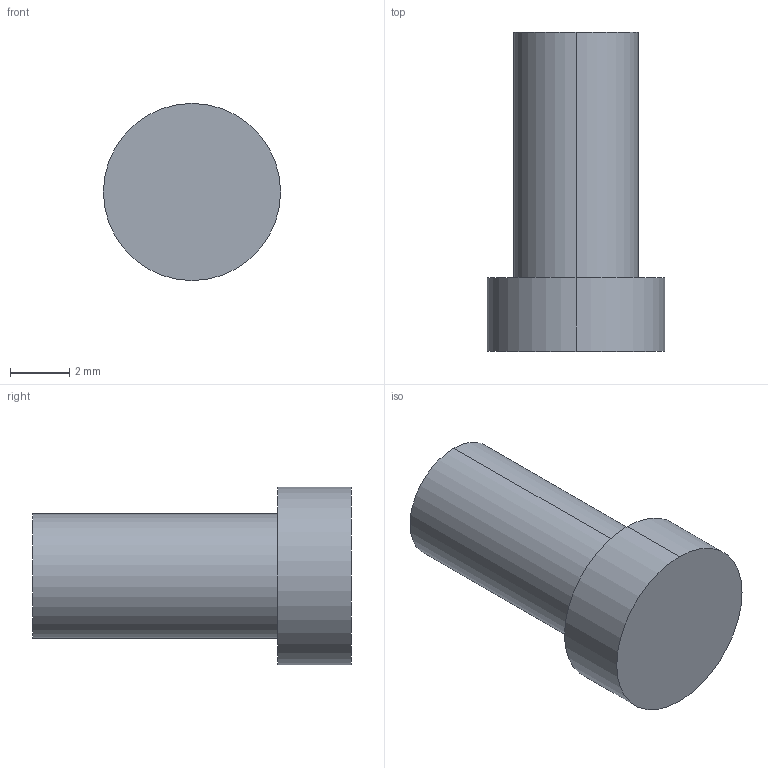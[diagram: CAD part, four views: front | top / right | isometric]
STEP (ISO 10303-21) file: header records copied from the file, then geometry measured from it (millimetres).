
FILE_DESCRIPTION((''),'2;1');
FILE_NAME('4MMAXIS_V-1','2022-08-24T09:16:18',('domen.bizjak'),('Audax d.o.o.'),'CREO PARAMETRIC BY PTC INC, 2021184','CREO PARAMETRIC BY PTC INC, 2021184','');
FILE_SCHEMA(('AP242_MANAGED_MODEL_BASED_3D_ENGINEERING_MIM_LF { 1 0 10303 442 1 1 4 }'));
Length unit declared in the file: millimetre
Products named in the file (1): 4MMAXIS_V-1
Bounding box: 6 x 10.8 x 6 mm (x, y, z)
Volume: 185.7 mm3; surface area: 213.2 mm2
Topology: 1 solids, 1 shells, 7 faces, 21 edges, 20 vertices
Faces by surface type: cylinder 4, plane 3
Entity records: 894 total; most frequent: COLOUR_RGB 320, DIRECTION 77, CARTESIAN_POINT 55, AXIS2_PLACEMENT_3D 35, PRESENTATION_STYLE_ASSIGNMENT 27, STYLED_ITEM 27, PROPERTY_DEFINITION 26, ORIENTED_EDGE 24
